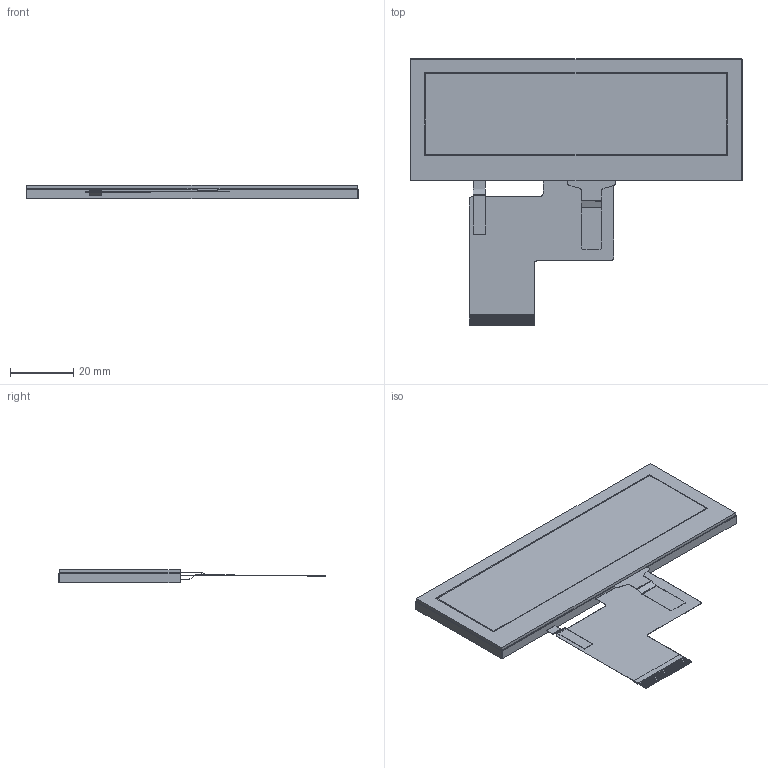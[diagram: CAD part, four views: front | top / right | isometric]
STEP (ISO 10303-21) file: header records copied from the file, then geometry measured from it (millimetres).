
FILE_DESCRIPTION (( 'STEP AP203' ), '1' );
FILE_NAME ('NHD-3.9-480128AF-ASXP-T_Rev1A.STEP', '2025-01-13T19:41:13', ( '' ), ( '' ), 'SwSTEP 2.0', 'SolidWorks 2019', '' );
FILE_SCHEMA (( 'CONFIG_CONTROL_DESIGN' ));
Length unit declared in the file: millimetre
Products named in the file (2): NHD-3.9-480128AF-ASXP-T_Rev1A
Bounding box: 104.9 x 84.2 x 4.11 mm (x, y, z)
Volume: 16786.1 mm3; surface area: 38732.8 mm2
Topology: 49 solids, 49 shells, 405 faces, 920 edges, 613 vertices
Faces by surface type: plane 385, cylinder 12, bspline 8
Entity records: 11820 total; most frequent: CARTESIAN_POINT 2697, ORIENTED_EDGE 1840, DIRECTION 1697, EDGE_CURVE 920, LINE 867, VECTOR 867, VERTEX_POINT 613, AXIS2_PLACEMENT_3D 415
